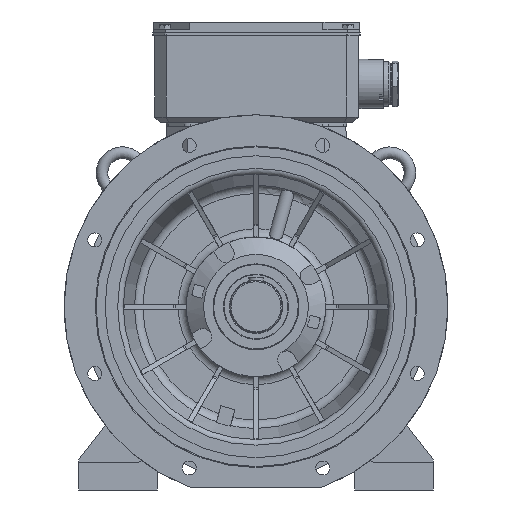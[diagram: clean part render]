
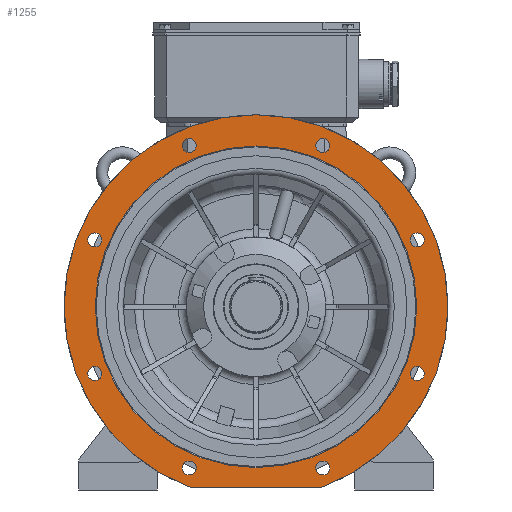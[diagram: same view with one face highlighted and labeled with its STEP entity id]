
A CAD part, front view. The second image highlights one B-rep face of the part: STEP entity #1255.
In plain terms, the highlighted planar face has unit normal (0, -1, 0).
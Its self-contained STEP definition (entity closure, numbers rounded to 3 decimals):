
#1255 = ADVANCED_FACE( '', ( #3653, #3654, #3655, #3656, #3657, #3658, #3659, #3660, #3661, #3662 ), #3663, .F. );
#3653 = FACE_OUTER_BOUND( '', #9102, .T. );
#3654 = FACE_BOUND( '', #9103, .T. );
#3655 = FACE_BOUND( '', #9104, .T. );
#3656 = FACE_BOUND( '', #9105, .T. );
#3657 = FACE_BOUND( '', #9106, .T. );
#3658 = FACE_BOUND( '', #9107, .T. );
#3659 = FACE_BOUND( '', #9108, .T. );
#3660 = FACE_BOUND( '', #9109, .T. );
#3661 = FACE_BOUND( '', #9110, .T. );
#3662 = FACE_BOUND( '', #9111, .T. );
#3663 = PLANE( '', #9112 );
#9102 = EDGE_LOOP( '', ( #19688, #19689, #19690, #19691 ) );
#9103 = EDGE_LOOP( '', ( #19692 ) );
#9104 = EDGE_LOOP( '', ( #19693 ) );
#9105 = EDGE_LOOP( '', ( #19694 ) );
#9106 = EDGE_LOOP( '', ( #19695 ) );
#9107 = EDGE_LOOP( '', ( #19696 ) );
#9108 = EDGE_LOOP( '', ( #19697 ) );
#9109 = EDGE_LOOP( '', ( #19698 ) );
#9110 = EDGE_LOOP( '', ( #19699 ) );
#9111 = EDGE_LOOP( '', ( #19700 ) );
#9112 = AXIS2_PLACEMENT_3D( '', #19701, #19702, #19703 );
#19688 = ORIENTED_EDGE( '', *, *, #23336, .T. );
#19689 = ORIENTED_EDGE( '', *, *, #25551, .F. );
#19690 = ORIENTED_EDGE( '', *, *, #25162, .T. );
#19691 = ORIENTED_EDGE( '', *, *, #23327, .F. );
#19692 = ORIENTED_EDGE( '', *, *, #23875, .F. );
#19693 = ORIENTED_EDGE( '', *, *, #23871, .F. );
#19694 = ORIENTED_EDGE( '', *, *, #23873, .F. );
#19695 = ORIENTED_EDGE( '', *, *, #26068, .F. );
#19696 = ORIENTED_EDGE( '', *, *, #26069, .F. );
#19697 = ORIENTED_EDGE( '', *, *, #23487, .F. );
#19698 = ORIENTED_EDGE( '', *, *, #24088, .F. );
#19699 = ORIENTED_EDGE( '', *, *, #24080, .F. );
#19700 = ORIENTED_EDGE( '', *, *, #25579, .F. );
#19701 = CARTESIAN_POINT( '', ( 0., -104.997, 276.4 ) );
#19702 = DIRECTION( '', ( 0., 1., 0. ) );
#19703 = DIRECTION( '', ( 1., 0., 0. ) );
#23327 = EDGE_CURVE( '', #27825, #27826, #27827, .T. );
#23336 = EDGE_CURVE( '', #27825, #27842, #27843, .F. );
#23487 = EDGE_CURVE( '', #28131, #28131, #28132, .F. );
#23871 = EDGE_CURVE( '', #28851, #28851, #28852, .F. );
#23873 = EDGE_CURVE( '', #28855, #28855, #28856, .F. );
#23875 = EDGE_CURVE( '', #28859, #28859, #28860, .F. );
#24080 = EDGE_CURVE( '', #29243, #29243, #29244, .F. );
#24088 = EDGE_CURVE( '', #29259, #29259, #29260, .F. );
#25162 = EDGE_CURVE( '', #31131, #27826, #31132, .F. );
#25551 = EDGE_CURVE( '', #31131, #27842, #31772, .T. );
#25579 = EDGE_CURVE( '', #31812, #31812, #31813, .F. );
#26068 = EDGE_CURVE( '', #32527, #32527, #32528, .F. );
#26069 = EDGE_CURVE( '', #32529, #32529, #32530, .F. );
#27825 = VERTEX_POINT( '', #34330 );
#27826 = VERTEX_POINT( '', #34331 );
#27827 = CIRCLE( '', #34332, 330. );
#27842 = VERTEX_POINT( '', #34385 );
#27843 = CIRCLE( '', #34386, 3. );
#28131 = VERTEX_POINT( '', #34992 );
#28132 = CIRCLE( '', #34993, 12. );
#28851 = VERTEX_POINT( '', #37403 );
#28852 = CIRCLE( '', #37404, 12. );
#28855 = VERTEX_POINT( '', #37407 );
#28856 = CIRCLE( '', #37408, 12. );
#28859 = VERTEX_POINT( '', #37411 );
#28860 = CIRCLE( '', #37412, 12. );
#29243 = VERTEX_POINT( '', #38239 );
#29244 = CIRCLE( '', #38240, 12. );
#29259 = VERTEX_POINT( '', #38258 );
#29260 = CIRCLE( '', #38259, 12. );
#31131 = VERTEX_POINT( '', #43006 );
#31132 = CIRCLE( '', #43007, 3. );
#31772 = LINE( '', #44674, #44675 );
#31812 = VERTEX_POINT( '', #44801 );
#31813 = CIRCLE( '', #44802, 276.4 );
#32527 = VERTEX_POINT( '', #46873 );
#32528 = CIRCLE( '', #46874, 12. );
#32529 = VERTEX_POINT( '', #46875 );
#32530 = CIRCLE( '', #46876, 12. );
#34330 = CARTESIAN_POINT( '', ( -113.639, -104.997, -309.817 ) );
#34331 = CARTESIAN_POINT( '', ( 113.639, -104.997, -309.817 ) );
#34332 = AXIS2_PLACEMENT_3D( '', #48909, #48910, #48911 );
#34385 = CARTESIAN_POINT( '', ( -112.606, -104.997, -310. ) );
#34386 = AXIS2_PLACEMENT_3D( '', #48920, #48921, #48922 );
#34992 = CARTESIAN_POINT( '', ( 277.164, -104.997, 126.805 ) );
#34993 = AXIS2_PLACEMENT_3D( '', #49113, #49114, #49115 );
#37403 = CARTESIAN_POINT( '', ( -277.164, -104.997, -102.805 ) );
#37404 = AXIS2_PLACEMENT_3D( '', #49631, #49632, #49633 );
#37407 = CARTESIAN_POINT( '', ( -114.805, -104.997, -265.164 ) );
#37408 = AXIS2_PLACEMENT_3D( '', #49637, #49638, #49639 );
#37411 = CARTESIAN_POINT( '', ( -277.164, -104.997, 126.805 ) );
#37412 = AXIS2_PLACEMENT_3D( '', #49643, #49644, #49645 );
#38239 = CARTESIAN_POINT( '', ( -114.805, -104.997, 289.164 ) );
#38240 = AXIS2_PLACEMENT_3D( '', #49948, #49949, #49950 );
#38258 = CARTESIAN_POINT( '', ( 114.805, -104.997, 289.164 ) );
#38259 = AXIS2_PLACEMENT_3D( '', #49966, #49967, #49968 );
#43006 = CARTESIAN_POINT( '', ( 112.606, -104.997, -310. ) );
#43007 = AXIS2_PLACEMENT_3D( '', #51483, #51484, #51485 );
#44674 = CARTESIAN_POINT( '', ( -113.137, -104.997, -310. ) );
#44675 = VECTOR( '', #51997, 1000. );
#44801 = CARTESIAN_POINT( '', ( 0., -104.997, 276.4 ) );
#44802 = AXIS2_PLACEMENT_3D( '', #52036, #52037, #52038 );
#46873 = CARTESIAN_POINT( '', ( 114.805, -104.997, -265.164 ) );
#46874 = AXIS2_PLACEMENT_3D( '', #52697, #52698, #52699 );
#46875 = CARTESIAN_POINT( '', ( 277.164, -104.997, -102.805 ) );
#46876 = AXIS2_PLACEMENT_3D( '', #52700, #52701, #52702 );
#48909 = CARTESIAN_POINT( '', ( 0., -104.997, 0. ) );
#48910 = DIRECTION( '', ( 0., 1., 0. ) );
#48911 = DIRECTION( '', ( 0., 0., 1. ) );
#48920 = CARTESIAN_POINT( '', ( -112.606, -104.997, -307. ) );
#48921 = DIRECTION( '', ( 0., 1., 0. ) );
#48922 = DIRECTION( '', ( 0., 0., 1. ) );
#49113 = CARTESIAN_POINT( '', ( 277.164, -104.997, 114.805 ) );
#49114 = DIRECTION( '', ( 0., 1., 0. ) );
#49115 = DIRECTION( '', ( 0., 0., 1. ) );
#49631 = CARTESIAN_POINT( '', ( -277.164, -104.997, -114.805 ) );
#49632 = DIRECTION( '', ( 0., 1., 0. ) );
#49633 = DIRECTION( '', ( 0., 0., 1. ) );
#49637 = CARTESIAN_POINT( '', ( -114.805, -104.997, -277.164 ) );
#49638 = DIRECTION( '', ( 0., 1., 0. ) );
#49639 = DIRECTION( '', ( 0., 0., 1. ) );
#49643 = CARTESIAN_POINT( '', ( -277.164, -104.997, 114.805 ) );
#49644 = DIRECTION( '', ( 0., 1., 0. ) );
#49645 = DIRECTION( '', ( 0., 0., 1. ) );
#49948 = CARTESIAN_POINT( '', ( -114.805, -104.997, 277.164 ) );
#49949 = DIRECTION( '', ( 0., 1., 0. ) );
#49950 = DIRECTION( '', ( 0., 0., 1. ) );
#49966 = CARTESIAN_POINT( '', ( 114.805, -104.997, 277.164 ) );
#49967 = DIRECTION( '', ( 0., 1., 0. ) );
#49968 = DIRECTION( '', ( 0., 0., 1. ) );
#51483 = CARTESIAN_POINT( '', ( 112.606, -104.997, -307. ) );
#51484 = DIRECTION( '', ( 0., 1., 0. ) );
#51485 = DIRECTION( '', ( 0., 0., 1. ) );
#51997 = DIRECTION( '', ( -1., 0., 0. ) );
#52036 = CARTESIAN_POINT( '', ( 0., -104.997, 0. ) );
#52037 = DIRECTION( '', ( 0., 1., 0. ) );
#52038 = DIRECTION( '', ( 0., 0., 1. ) );
#52697 = CARTESIAN_POINT( '', ( 114.805, -104.997, -277.164 ) );
#52698 = DIRECTION( '', ( 0., 1., 0. ) );
#52699 = DIRECTION( '', ( 0., 0., 1. ) );
#52700 = CARTESIAN_POINT( '', ( 277.164, -104.997, -114.805 ) );
#52701 = DIRECTION( '', ( 0., 1., 0. ) );
#52702 = DIRECTION( '', ( 0., 0., 1. ) );
